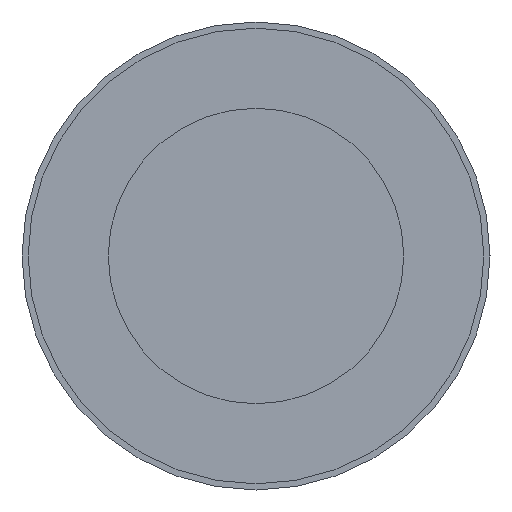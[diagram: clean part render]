
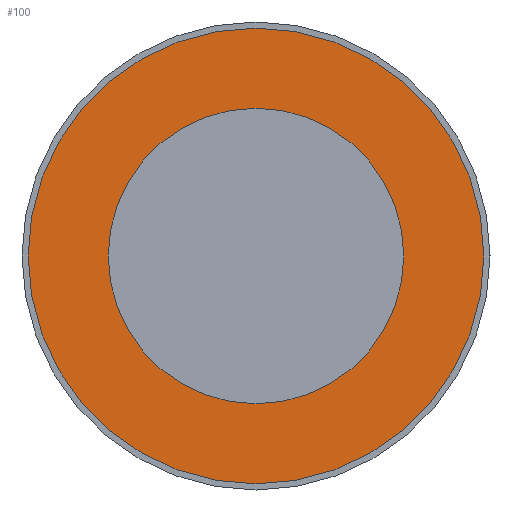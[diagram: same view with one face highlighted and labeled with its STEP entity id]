
A CAD part, left-side view. The second image highlights one B-rep face of the part: STEP entity #100.
In plain terms, the highlighted planar face has unit normal (-1, 0, 0).
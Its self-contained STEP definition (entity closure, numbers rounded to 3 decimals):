
#100 = ADVANCED_FACE( '', ( #161, #162 ), #163, .T. );
#161 = FACE_BOUND( '', #225, .T. );
#162 = FACE_OUTER_BOUND( '', #226, .T. );
#163 = PLANE( '', #227 );
#225 = EDGE_LOOP( '', ( #405, #406 ) );
#226 = EDGE_LOOP( '', ( #407, #408 ) );
#227 = AXIS2_PLACEMENT_3D( '', #409, #410, #411 );
#405 = ORIENTED_EDGE( '', *, *, #476, .F. );
#406 = ORIENTED_EDGE( '', *, *, #427, .F. );
#407 = ORIENTED_EDGE( '', *, *, #431, .T. );
#408 = ORIENTED_EDGE( '', *, *, #475, .T. );
#409 = CARTESIAN_POINT( '', ( 0., 7.625, 0. ) );
#410 = DIRECTION( '', ( -1., 0., 0. ) );
#411 = DIRECTION( '', ( 0., 1., 0. ) );
#427 = EDGE_CURVE( '', #483, #479, #485, .T. );
#431 = EDGE_CURVE( '', #487, #491, #493, .T. );
#475 = EDGE_CURVE( '', #491, #487, #565, .T. );
#476 = EDGE_CURVE( '', #479, #483, #566, .T. );
#479 = VERTEX_POINT( '', #569 );
#483 = VERTEX_POINT( '', #574 );
#485 = CIRCLE( '', #577, 6. );
#487 = VERTEX_POINT( '', #579 );
#491 = VERTEX_POINT( '', #584 );
#493 = CIRCLE( '', #587, 9.25 );
#565 = CIRCLE( '', #673, 9.25 );
#566 = CIRCLE( '', #674, 6. );
#569 = CARTESIAN_POINT( '', ( 0., 6., 0. ) );
#574 = CARTESIAN_POINT( '', ( 0., -6., 0. ) );
#577 = AXIS2_PLACEMENT_3D( '', #681, #682, #683 );
#579 = CARTESIAN_POINT( '', ( 0., 9.25, 0. ) );
#584 = CARTESIAN_POINT( '', ( 0., -9.25, 0. ) );
#587 = AXIS2_PLACEMENT_3D( '', #689, #690, #691 );
#673 = AXIS2_PLACEMENT_3D( '', #793, #794, #795 );
#674 = AXIS2_PLACEMENT_3D( '', #796, #797, #798 );
#681 = CARTESIAN_POINT( '', ( 0., 0., 0. ) );
#682 = DIRECTION( '', ( -1., 0., 0. ) );
#683 = DIRECTION( '', ( 0., 1., 0. ) );
#689 = CARTESIAN_POINT( '', ( 0., 0., 0. ) );
#690 = DIRECTION( '', ( -1., 0., 0. ) );
#691 = DIRECTION( '', ( 0., 1., 0. ) );
#793 = CARTESIAN_POINT( '', ( 0., 0., 0. ) );
#794 = DIRECTION( '', ( -1., 0., 0. ) );
#795 = DIRECTION( '', ( 0., 1., 0. ) );
#796 = CARTESIAN_POINT( '', ( 0., 0., 0. ) );
#797 = DIRECTION( '', ( -1., 0., 0. ) );
#798 = DIRECTION( '', ( 0., 1., 0. ) );
